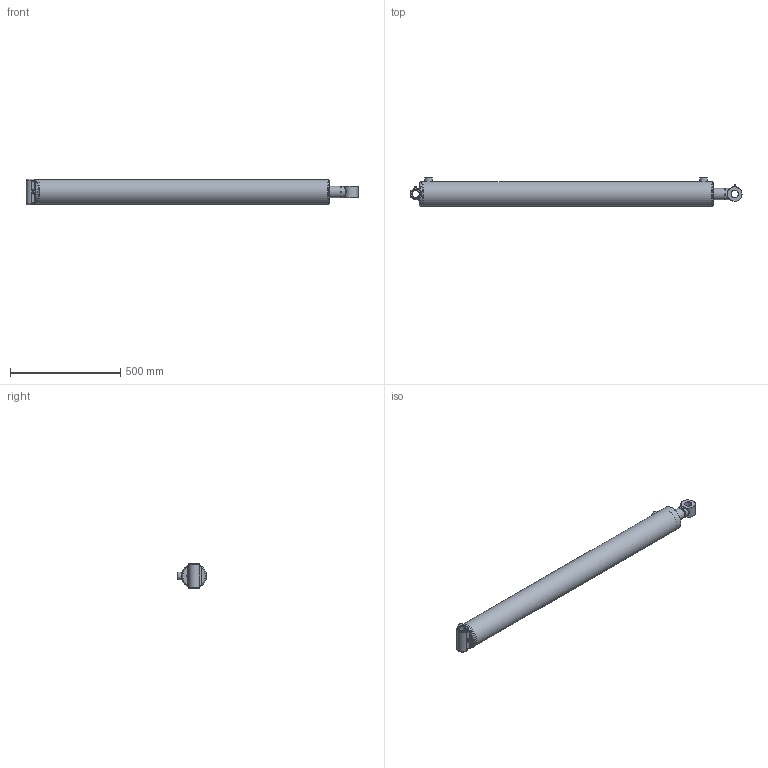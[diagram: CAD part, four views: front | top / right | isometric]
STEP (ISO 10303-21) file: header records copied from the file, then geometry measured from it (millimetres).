
FILE_DESCRIPTION(/* description */ ('Ø4.00 X 48.00 DA'),/* implementation_level */ '2;1');
FILE_NAME(/* name */ 'D:\Temp\1EC677A6F87950A\tjae4icm.jtg\Temp\jgjhhoww..stp',/* time_stamp */ '2020-09-18T16:04:02+00:00',/* author */ (''),/* organization */ ('PRINCE MANUFACTURING'),/* preprocessor_version */ 'ST-DEVELOPER v18.1',/* originating_system */ 'Autodesk Inventor 2021',/* authorisation */ '');
FILE_SCHEMA (('AUTOMOTIVE_DESIGN { 1 0 10303 214 3 1 1 }'));
Length unit declared in the file: inch
Products named in the file (21): PC4048020A00-570XTXS; 0619-XTSG00-480; 0519-T-51620; 161900225; 200015706; 06Weld1_C360; 0719-P-125; 220000212; 0819-G-200; 230025106; 230025006; 240000026; 240061342; 240000342; 0211-AXS40-570X; 0111A-JAW4-53937; 210600511; 02Weld_C360; 240020009; 250014200; 270010020
Assembly tree (22 placements, depth 3):
  PC4048020A00-570XTXS
    0619-XTSG00-480
      0519-T-51620
      161900225
      200015706  x2
      06Weld1_C360
    0719-P-125
    220000212
    0819-G-200
    230025106
    230025006
    240000026
    240061342
    240000342
    0211-AXS40-570X
      0111A-JAW4-53937
      210600511
      02Weld_C360
    240020009
    250014200
    270010020  x2
Bounding box: 1505.87 x 132.19 x 114.3 mm (x, y, z)
Volume: 6107744.7 mm3; surface area: 1331064.8 mm2
Topology: 26 solids, 26 shells, 499 faces, 1415 edges, 978 vertices
Faces by surface type: plane 139, bspline 126, torus 90, cylinder 80, cone 62, sphere 2
Full cylindrical faces by diameter (mm): 1.524 x2, 5.359 x2, 6.35 x2, 12.7 x2, 20.269 x2, 29.464 x1, 31.699 x1, 31.826 x1, 32.131 x2, 34.315 x1, 34.925 x2, 35.052 x2, 50.8 x1, 50.876 x2, 51.994 x2, 52.832 x1, 53.188 x1, 57.963 x1, 59.157 x1, 60.35 x1, 61.976 x2, 63.5 x2, 73.152 x1, 82.55 x1, 92.177 x2, 92.913 x2, 96.52 x1, 98.031 x2, 98.273 x4, 100.986 x2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
Entity records: 32925 total; most frequent: CARTESIAN_POINT 19556, ORIENTED_EDGE 2656, DIRECTION 2459, EDGE_CURVE 1328, AXIS2_PLACEMENT_3D 1059, VERTEX_POINT 925, CIRCLE 657, EDGE_LOOP 539
